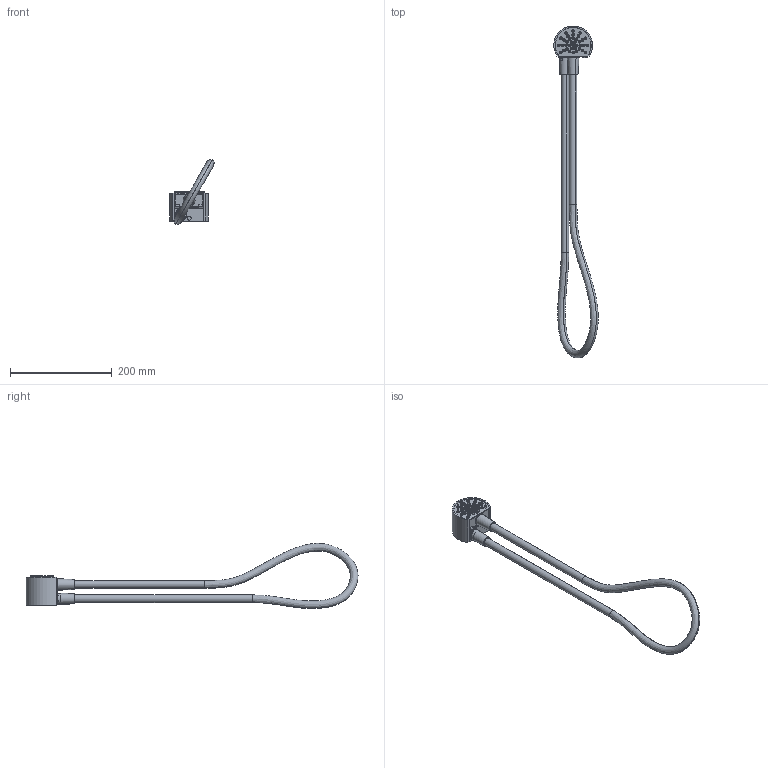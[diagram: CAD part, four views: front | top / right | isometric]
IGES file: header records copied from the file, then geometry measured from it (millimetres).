
Start section:  PTC IGES file: 89400w21_sw0001.igs
Global section: file name: 89400w21_sw0001.igs; native system: Creo Parametric by PTC Inc.; preprocessor: 2018100; author: carloff; organization: Unknown; date: 20200619.103459; units: millimetre
Bounding box: 87.19 x 651.89 x 127.75 mm (x, y, z)
Surface area: 96595.1 mm2 (no closed solid volume)
Topology: 0 solids, 0 shells, 238 faces, 911 edges, 911 vertices
Faces by surface type: revolution 171, bspline 67
